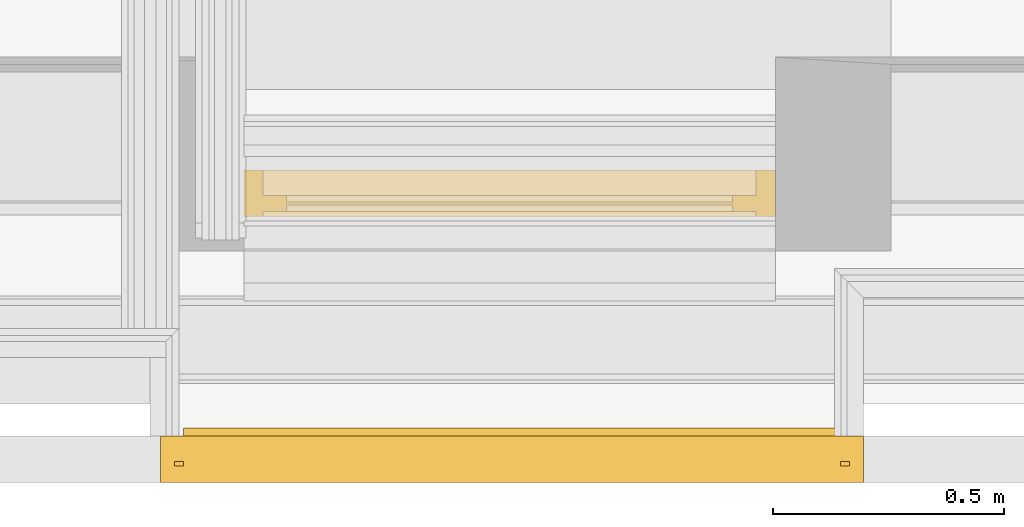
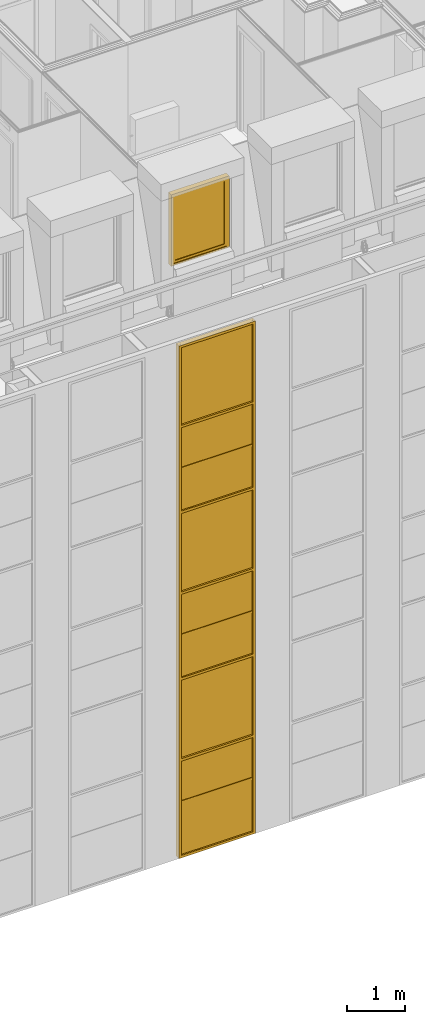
# One storey, part 94 of 169: 1 curtain wall, 1 window.
"""IFC2X3 building model written with IfcOpenShell, lengths in metres."""

import ifcopenshell
import ifcopenshell.guid

model = None  # the IFC model being written
_history = None  # IfcOwnerHistory: only IFC2X3 demands one
_inside = {}  # id of a spatial element -> (the spatial element, [elements in it])
_under = {}  # id of a project, library or spatial element -> (it, [spatial elements below it])
_declared = {}  # id of a project -> (the project, [libraries it declares])
_typed = {}  # id of a type object -> (the type object, [elements of that type])
_made_of = {}  # id of a material, layer set ... -> (it, [elements and type objects made of it])


def new_model(schema):
    """Start an empty IFC model of exactly this schema.

    Asked for "IFC4X3", IfcOpenShell would pick the latest addendum, in which some entities
    have other attributes; the version numbers below select the first issue.
    IFC2X3 requires an IfcOwnerHistory on every rooted entity: one is made here for all.
    """
    global model, _history
    if schema == "IFC4X3":
        model = ifcopenshell.file(schema_version=(4, 3, 0, 0))
    else:
        model = ifcopenshell.file(schema=schema)
    _inside.clear()
    _under.clear()
    _declared.clear()
    _typed.clear()
    _made_of.clear()
    _history = None
    if model.schema == "IFC2X3":
        org = make("IfcOrganization", Name="unknown")
        user = make(
            "IfcPersonAndOrganization",
            ThePerson=make("IfcPerson", FamilyName="unknown"),
            TheOrganization=org,
        )
        app = make(
            "IfcApplication",
            ApplicationDeveloper=org,
            Version="unknown",
            ApplicationFullName="unknown",
            ApplicationIdentifier="unknown",
        )
        _history = make(
            "IfcOwnerHistory",
            OwningUser=user,
            OwningApplication=app,
            ChangeAction="ADDED",
            CreationDate=0,
        )
    return model


def make(cls, **values):
    """One entity of the class cls with the attributes given. An attribute that is None is left unset."""
    return model.create_entity(
        cls, **{name: value for name, value in values.items() if value is not None}
    )


def entity(cls, *values):
    """Any entity or typed value of the class cls, its attributes in the order of the schema. None: left unset."""
    e = model.create_entity(cls)
    for i, value in enumerate(values):
        if value is not None:
            e[i] = value
    return e


def rooted(cls, **values):
    """An entity with a GlobalId (a new one), such as an element, a storey or a relation."""
    return make(cls, GlobalId=ifcopenshell.guid.new(), OwnerHistory=_history, **values)


def si_unit(unit_type, name, prefix=None):
    """IfcSIUnit, for example si_unit("LENGTHUNIT", "METRE", prefix="MILLI")."""
    return make("IfcSIUnit", UnitType=unit_type, Prefix=prefix, Name=name)


def converted_unit(unit_type, name, factor, base, dimensions=None, offset=None):
    """IfcConversionBasedUnit, such as the inch: factor (a typed value) times the base unit."""
    return make(
        "IfcConversionBasedUnit"
        if offset is None
        else "IfcConversionBasedUnitWithOffset",
        ConversionOffset=offset,
        Dimensions=None
        if dimensions is None
        else entity("IfcDimensionalExponents", *dimensions),
        UnitType=unit_type,
        Name=name,
        ConversionFactor=make(
            "IfcMeasureWithUnit", ValueComponent=factor, UnitComponent=base
        ),
    )


def derived_unit(unit_type, elements):
    """IfcDerivedUnit: a product of units, each with its exponent."""
    return make(
        "IfcDerivedUnit",
        Elements=[
            make("IfcDerivedUnitElement", Unit=unit, Exponent=power)
            for unit, power in elements
        ],
        UnitType=unit_type,
    )


def money_unit(currency):
    """IfcMonetaryUnit."""
    return make("IfcMonetaryUnit", Currency=currency)


def assignment(units):
    """IfcUnitAssignment: the units of a project."""
    return None if units is None else make("IfcUnitAssignment", Units=units)


def point(xyz):
    """IfcCartesianPoint."""
    return None if xyz is None else make("IfcCartesianPoint", Coordinates=xyz)


def direction(xyz):
    """IfcDirection."""
    return None if xyz is None else make("IfcDirection", DirectionRatios=xyz)


def frame(location, z_axis=None, x_axis=None):
    """IfcAxis2Placement3D, a coordinate frame: its origin and axes. An axis left out is left unset."""
    return make(
        "IfcAxis2Placement3D",
        Location=point(location),
        Axis=direction(z_axis),
        RefDirection=direction(x_axis),
    )


def origin_with_axes():
    """The frame at (0, 0, 0) with the z axis (0, 0, 1) and the x axis (1, 0, 0) written out."""
    return frame((0.0, 0.0, 0.0), z_axis=(0.0, 0.0, 1.0), x_axis=(1.0, 0.0, 0.0))


def place(relative_to, where):
    """IfcLocalPlacement: puts the frame where relative to a parent placement (None: the world)."""
    return make(
        "IfcLocalPlacement", PlacementRelTo=relative_to, RelativePlacement=where
    )


def context(
    kind, dimensions, precision=None, world=None, true_north=None, identifier=None
):
    """IfcGeometricRepresentationContext, for example the 3D "Model" context."""
    return make(
        "IfcGeometricRepresentationContext",
        ContextIdentifier=identifier,
        ContextType=kind,
        CoordinateSpaceDimension=dimensions,
        Precision=precision,
        WorldCoordinateSystem=world,
        TrueNorth=true_north,
    )


def subcontext(parent, identifier, kind, view, scale=None):
    """IfcGeometricRepresentationSubContext, for example "Body" below "Model"."""
    return make(
        "IfcGeometricRepresentationSubContext",
        ContextIdentifier=identifier,
        ContextType=kind,
        ParentContext=parent,
        TargetScale=scale,
        TargetView=view,
    )


def project(units=None, contexts=None):
    """IfcProject with its units and contexts."""
    return rooted(
        "IfcProject",
        Name="project",
        RepresentationContexts=contexts,
        UnitsInContext=assignment(units),
    )


def spatial(cls, under=None, at=None, **own):
    """A site, building, storey or space (cls), placed at a placement, below another one or the project."""
    s = rooted(cls, ObjectPlacement=at, **own)
    if under is not None:
        _under.setdefault(under.id(), (under, []))[1].append(s)
    return s


def faces_of(points, faces, orient=None, outer=None):
    """IfcFace entities. A face is a list of loops; a loop is a list of indices into points, from 0.

    orient and outer hold one flag for each loop. By default every Orientation is true, the
    first loop of a face is its IfcFaceOuterBound and the others are IfcFaceBound.
    """
    made = []
    for i, loops in enumerate(faces):
        bounds = []
        for j, loop in enumerate(loops):
            is_outer = j == 0 if outer is None else outer[i][j]
            bounds.append(
                make(
                    "IfcFaceOuterBound" if is_outer else "IfcFaceBound",
                    Bound=make("IfcPolyLoop", Polygon=[points[k] for k in loop]),
                    Orientation=True if orient is None else orient[i][j],
                )
            )
        made.append(make("IfcFace", Bounds=bounds))
    return made


def faceted_brep(points, faces, orient=None, outer=None, voids=None):
    """IfcFacetedBrep: a solid bounded by flat faces; with voids (closed shells), ...WithVoids."""
    shared = [point(p) for p in points]
    hull = make("IfcClosedShell", CfsFaces=faces_of(shared, faces, orient, outer))
    if voids is None:
        return make("IfcFacetedBrep", Outer=hull)
    return make(
        "IfcFacetedBrepWithVoids",
        Outer=hull,
        Voids=[
            make(cls, CfsFaces=faces_of(shared, fs, o, b)) for cls, fs, o, b in voids
        ],
    )


def shape(context_of_items, identifier, shape_type, items):
    """IfcShapeRepresentation: the items that make up one representation, for example the "Body"."""
    return make(
        "IfcShapeRepresentation",
        ContextOfItems=context_of_items,
        RepresentationIdentifier=identifier,
        RepresentationType=shape_type,
        Items=items,
    )


def material(Name=None, Category=None):
    """IfcMaterial."""
    return make("IfcMaterial", Name=Name, Category=Category)


def made_of(thing, what):
    """Note that an element or type object is made of a material, layer set ...; save() writes the relation."""
    if what is not None:
        _made_of.setdefault(what.id(), (what, []))[1].append(thing)
    return thing


def type_object(cls, material=None, **own):
    """A type object (cls), such as IfcWallType, which elements share."""
    return made_of(rooted(cls, **own), material)


def element(
    cls,
    number,
    at=None,
    inside=None,
    cuts=None,
    type_object=None,
    material=None,
    context=None,
    identifier="Body",
    shape_type=None,
    held_by="IfcProductDefinitionShape",
    body=None,
    shapes=None,
    **own,
):
    """One element of the class cls, such as IfcWall. Its Tag is "e" and its number.

    at: its placement. inside: the storey or other place that contains it. cuts: it is an
    opening in that element (IfcRelVoidsElement). A single representation is given by context,
    identifier, shape_type and body (its items); several are given by shapes. held_by: the class
    of the entity that holds the representations. save() writes the other relations.
    """
    e = rooted(cls, Tag="e%d" % number, ObjectPlacement=at, **own)
    if body is not None:
        shapes = [shape(context, identifier, shape_type, body)]
    if shapes is not None:
        e.Representation = make(held_by, Representations=shapes)
    if inside is not None:
        _inside.setdefault(inside.id(), (inside, []))[1].append(e)
    if cuts is not None:
        rooted(
            "IfcRelVoidsElement", RelatingBuildingElement=cuts, RelatedOpeningElement=e
        )
    if type_object is not None:
        _typed.setdefault(type_object.id(), (type_object, []))[1].append(e)
    return made_of(e, material)


def aggregate(whole, parts):
    """IfcRelAggregates: a whole, such as a stair, and the parts it consists of."""
    return rooted("IfcRelAggregates", RelatingObject=whole, RelatedObjects=parts)


def save(model, path):
    """Write the relations noted so far, then the file.

    IfcRelAggregates (storeys below a building ...), IfcRelContainedInSpatialStructure (elements
    in a storey), IfcRelDefinesByType, IfcRelAssociatesMaterial and IfcRelDeclares: one each for
    every whole, place, type object, material and project.
    """
    for whole, parts in _under.values():
        aggregate(whole, parts)
    for where, things in _inside.values():
        rooted(
            "IfcRelContainedInSpatialStructure",
            RelatedElements=things,
            RelatingStructure=where,
        )
    for kind, things in _typed.values():
        rooted("IfcRelDefinesByType", RelatedObjects=things, RelatingType=kind)
    for what, things in _made_of.values():
        rooted("IfcRelAssociatesMaterial", RelatedObjects=things, RelatingMaterial=what)
    for by, libraries in _declared.values():
        rooted("IfcRelDeclares", RelatingContext=by, RelatedDefinitions=libraries)
    model.write(path)


model = new_model("IFC2X3")

# Units and contexts
model_context = context("Model", 3, precision=1e-05, world=origin_with_axes(), true_north=direction((0.0, 1.0)))
body_context = subcontext(model_context, "Body", "Model", "MODEL_VIEW", scale=1.0)
ifc_project = project(units=[si_unit("LENGTHUNIT", "METRE"), si_unit("AREAUNIT", "SQUARE_METRE"), si_unit("VOLUMEUNIT", "CUBIC_METRE"), si_unit("ABSORBEDDOSEUNIT", "GRAY"), si_unit("AMOUNTOFSUBSTANCEUNIT", "MOLE"), si_unit("DOSEEQUIVALENTUNIT", "SIEVERT"), si_unit("ELECTRICCAPACITANCEUNIT", "FARAD"), si_unit("ELECTRICCHARGEUNIT", "COULOMB"), si_unit("ELECTRICCONDUCTANCEUNIT", "SIEMENS"), si_unit("ELECTRICCURRENTUNIT", "AMPERE"), si_unit("ELECTRICRESISTANCEUNIT", "OHM"), si_unit("ELECTRICVOLTAGEUNIT", "VOLT"), si_unit("ENERGYUNIT", "JOULE"), si_unit("FORCEUNIT", "NEWTON"), si_unit("FREQUENCYUNIT", "HERTZ"), si_unit("ILLUMINANCEUNIT", "LUX"), si_unit("INDUCTANCEUNIT", "HENRY"), si_unit("LUMINOUSFLUXUNIT", "LUMEN"), si_unit("LUMINOUSINTENSITYUNIT", "CANDELA"), si_unit("MAGNETICFLUXDENSITYUNIT", "TESLA"), si_unit("MAGNETICFLUXUNIT", "WEBER"), si_unit("MASSUNIT", "GRAM"), converted_unit("PLANEANGLEUNIT", "degree", entity("IfcReal", 0.0174532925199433), si_unit("PLANEANGLEUNIT", "RADIAN"), dimensions=[0, 0, 0, 0, 0, 0, 0]), si_unit("POWERUNIT", "WATT"), si_unit("PRESSUREUNIT", "PASCAL"), si_unit("RADIOACTIVITYUNIT", "BECQUEREL"), si_unit("SOLIDANGLEUNIT", "STERADIAN"), si_unit("THERMODYNAMICTEMPERATUREUNIT", "KELVIN"), si_unit("TIMEUNIT", "SECOND"), derived_unit("ACCELERATIONUNIT", [(si_unit("LENGTHUNIT", "METRE"), 1), (si_unit("TIMEUNIT", "SECOND"), -2)]), derived_unit("ANGULARVELOCITYUNIT", [(converted_unit("PLANEANGLEUNIT", "degree", entity("IfcReal", 0.0174532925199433), si_unit("PLANEANGLEUNIT", "RADIAN"), dimensions=[0, 0, 0, 0, 0, 0, 0]), 1), (si_unit("TIMEUNIT", "SECOND"), -1)]), derived_unit("CURVATUREUNIT", [(converted_unit("PLANEANGLEUNIT", "degree", entity("IfcReal", 0.0174532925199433), si_unit("PLANEANGLEUNIT", "RADIAN"), dimensions=[0, 0, 0, 0, 0, 0, 0]), 1), (si_unit("LENGTHUNIT", "METRE"), -1)]), derived_unit("DYNAMICVISCOSITYUNIT", [(si_unit("PRESSUREUNIT", "PASCAL"), 1), (si_unit("TIMEUNIT", "SECOND"), 1)]), derived_unit("HEATFLUXDENSITYUNIT", [(si_unit("POWERUNIT", "WATT"), 1), (si_unit("LENGTHUNIT", "METRE"), -2)]), derived_unit("HEATINGVALUEUNIT", [(si_unit("ENERGYUNIT", "JOULE"), 1), (si_unit("MASSUNIT", "GRAM"), -1)]), derived_unit("INTEGERCOUNTRATEUNIT", [(si_unit("TIMEUNIT", "SECOND"), -1)]), derived_unit("IONCONCENTRATIONUNIT", [(si_unit("MASSUNIT", "GRAM"), 1), (si_unit("VOLUMEUNIT", "CUBIC_METRE"), -1)]), derived_unit("ISOTHERMALMOISTURECAPACITYUNIT", [(si_unit("VOLUMEUNIT", "CUBIC_METRE"), 1), (si_unit("MASSUNIT", "GRAM"), -1)]), derived_unit("KINEMATICVISCOSITYUNIT", [(si_unit("AREAUNIT", "SQUARE_METRE"), 1), (si_unit("TIMEUNIT", "SECOND"), -1)]), derived_unit("LINEARFORCEUNIT", [(si_unit("FORCEUNIT", "NEWTON"), 1), (si_unit("LENGTHUNIT", "METRE"), -1)]), derived_unit("LINEARMOMENTUNIT", [(si_unit("FORCEUNIT", "NEWTON"), 1), (si_unit("LENGTHUNIT", "METRE"), -1)]), derived_unit("LINEARSTIFFNESSUNIT", [(si_unit("FORCEUNIT", "NEWTON"), 1), (si_unit("LENGTHUNIT", "METRE"), -1)]), derived_unit("LINEARVELOCITYUNIT", [(si_unit("LENGTHUNIT", "METRE"), 1), (si_unit("TIMEUNIT", "SECOND"), -1)]), derived_unit("LUMINOUSINTENSITYDISTRIBUTIONUNIT", [(si_unit("LUMINOUSINTENSITYUNIT", "CANDELA"), 1), (si_unit("LUMINOUSFLUXUNIT", "LUMEN"), -1)]), derived_unit("MASSDENSITYUNIT", [(si_unit("MASSUNIT", "GRAM"), 1), (si_unit("VOLUMEUNIT", "CUBIC_METRE"), -1)]), derived_unit("MASSFLOWRATEUNIT", [(si_unit("MASSUNIT", "GRAM"), 1), (si_unit("TIMEUNIT", "SECOND"), -1)]), derived_unit("MASSPERLENGTHUNIT", [(si_unit("MASSUNIT", "GRAM"), 1), (si_unit("LENGTHUNIT", "METRE"), -1)]), derived_unit("MODULUSOFELASTICITYUNIT", [(si_unit("FORCEUNIT", "NEWTON"), 1), (si_unit("AREAUNIT", "SQUARE_METRE"), -1)]), derived_unit("MODULUSOFLINEARSUBGRADEREACTIONUNIT", [(si_unit("FORCEUNIT", "NEWTON"), 1), (si_unit("LENGTHUNIT", "METRE"), -2)]), derived_unit("MODULUSOFROTATIONALSUBGRADEREACTIONUNIT", [(si_unit("FORCEUNIT", "NEWTON"), 1), (si_unit("LENGTHUNIT", "METRE"), 1)]), derived_unit("MODULUSOFSUBGRADEREACTIONUNIT", [(si_unit("FORCEUNIT", "NEWTON"), 1), (si_unit("VOLUMEUNIT", "CUBIC_METRE"), -1)]), derived_unit("MOISTUREDIFFUSIVITYUNIT", [(si_unit("VOLUMEUNIT", "CUBIC_METRE"), 1), (si_unit("TIMEUNIT", "SECOND"), -1)]), derived_unit("MOLECULARWEIGHTUNIT", [(si_unit("MASSUNIT", "GRAM"), 1), (si_unit("AMOUNTOFSUBSTANCEUNIT", "MOLE"), -1)]), derived_unit("PLANARFORCEUNIT", [(si_unit("FORCEUNIT", "NEWTON"), 1), (si_unit("LENGTHUNIT", "METRE"), -2)]), derived_unit("ROTATIONALFREQUENCYUNIT", [(si_unit("TIMEUNIT", "SECOND"), -1)]), derived_unit("ROTATIONALMASSUNIT", [(si_unit("MASSUNIT", "GRAM"), 1), (si_unit("LENGTHUNIT", "METRE"), 2)]), derived_unit("ROTATIONALSTIFFNESSUNIT", [(si_unit("FORCEUNIT", "NEWTON"), 1), (si_unit("LENGTHUNIT", "METRE"), 1), (converted_unit("PLANEANGLEUNIT", "degree", entity("IfcReal", 0.0174532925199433), si_unit("PLANEANGLEUNIT", "RADIAN"), dimensions=[0, 0, 0, 0, 0, 0, 0]), -1)]), derived_unit("SECTIONAREAINTEGRALUNIT", [(si_unit("LENGTHUNIT", "METRE"), 5)]), derived_unit("SECTIONMODULUSUNIT", [(si_unit("LENGTHUNIT", "METRE"), 3)]), derived_unit("SHEARMODULUSUNIT", [(si_unit("FORCEUNIT", "NEWTON"), 1), (si_unit("AREAUNIT", "SQUARE_METRE"), -1)]), derived_unit("SOUNDPOWERUNIT", [(si_unit("ENERGYUNIT", "JOULE"), 1), (si_unit("TIMEUNIT", "SECOND"), -1)]), derived_unit("SPECIFICHEATCAPACITYUNIT", [(si_unit("FORCEUNIT", "NEWTON"), 1), (si_unit("MASSUNIT", "GRAM"), -1), (si_unit("THERMODYNAMICTEMPERATUREUNIT", "KELVIN"), -1)]), derived_unit("TEMPERATUREGRADIENTUNIT", [(si_unit("THERMODYNAMICTEMPERATUREUNIT", "KELVIN"), 1), (si_unit("LENGTHUNIT", "METRE"), -1)]), derived_unit("THERMALADMITTANCEUNIT", [(si_unit("POWERUNIT", "WATT"), 1), (si_unit("AREAUNIT", "SQUARE_METRE"), -1), (si_unit("THERMODYNAMICTEMPERATUREUNIT", "KELVIN"), -1)]), derived_unit("THERMALCONDUCTANCEUNIT", [(si_unit("POWERUNIT", "WATT"), 1), (si_unit("LENGTHUNIT", "METRE"), -1), (si_unit("THERMODYNAMICTEMPERATUREUNIT", "KELVIN"), -1)]), derived_unit("THERMALEXPANSIONCOEFFICIENTUNIT", [(si_unit("THERMODYNAMICTEMPERATUREUNIT", "KELVIN"), -1)]), derived_unit("THERMALRESISTANCEUNIT", [(si_unit("AREAUNIT", "SQUARE_METRE"), 1), (si_unit("POWERUNIT", "WATT"), -1)]), derived_unit("THERMALTRANSMITTANCEUNIT", [(si_unit("POWERUNIT", "WATT"), 1), (si_unit("AREAUNIT", "SQUARE_METRE"), -1), (si_unit("THERMODYNAMICTEMPERATUREUNIT", "KELVIN"), -1)]), derived_unit("TORQUEUNIT", [(si_unit("FORCEUNIT", "NEWTON"), 1), (si_unit("LENGTHUNIT", "METRE"), 1)]), derived_unit("VAPORPERMEABILITYUNIT", [(si_unit("MASSUNIT", "GRAM"), 1), (si_unit("TIMEUNIT", "SECOND"), -1)]), derived_unit("VOLUMETRICFLOWRATEUNIT", [(si_unit("VOLUMEUNIT", "CUBIC_METRE"), 1), (si_unit("TIMEUNIT", "SECOND"), -1)]), derived_unit("WARPINGCONSTANTUNIT", [(si_unit("LENGTHUNIT", "METRE"), 6)]), derived_unit("WARPINGMOMENTUNIT", [(si_unit("FORCEUNIT", "NEWTON"), 1), (si_unit("LENGTHUNIT", "METRE"), 2)]), money_unit("GBP")], contexts=[model_context])

# Site, building, storey
site_placement = place(None, origin_with_axes())
site = spatial("IfcSite", under=ifc_project, at=site_placement, Name="Site", CompositionType="ELEMENT")
building_placement = place(site_placement, origin_with_axes())
building = spatial("IfcBuilding", under=site, at=building_placement, Name="Building01", CompositionType="ELEMENT")
storey_placement = place(building_placement, frame((0.0, 0.0, 5.15), z_axis=(0.0, 0.0, 1.0), x_axis=(1.0, 0.0, 0.0)))
storey = spatial("IfcBuildingStorey", under=building, at=storey_placement, Name="1F", CompositionType="ELEMENT", Elevation=5.15)

# Curtain wall
ifc_material_1 = material(Name="A-CurtainWall_Frame")
curtain_wall_type = type_object("IfcCurtainWallType", Name="Pattern - Maximum Spacing", PredefinedType="NOTDEFINED")
curtain_wall_placement = place(storey_placement, frame((0.0, 0.0, -5.15), z_axis=(0.0, 0.0, 1.0), x_axis=(1.0, 0.0, 0.0)))
element("IfcCurtainWall", 1, at=curtain_wall_placement, inside=storey, type_object=curtain_wall_type, material=ifc_material_1, Name="19", ObjectType="Pattern - Maximum Spacing", context=body_context, shape_type="Brep", body=[
    faceted_brep([(7.3, 0.05, 4.0), (7.3, 0.03, 4.0), (7.3, 0.03, 5.118945), (7.3, 0.05, 5.118945), (8.76, 0.05, 4.0), (8.76, 0.03, 4.0), (8.76, 0.05, 5.118945), (8.76, 0.03, 5.118945)], [[[0, 1, 2, 3]], [[4, 5, 1, 0]], [[6, 7, 5, 4]], [[3, 2, 7, 6]], [[1, 5, 7, 2]], [[3, 6, 4, 0]]]),
    faceted_brep([(7.32, 0.045, 3.97), (7.3, 0.045, 3.97), (7.3, 0.035, 3.97), (7.32, 0.035, 3.97), (7.32, 0.0, 3.97), (7.27, 0.0, 3.97), (7.27, 0.1, 3.97), (7.32, 0.1, 3.97), (7.32, 0.1, 5.123945), (7.32, 0.045, 5.123945), (7.3, 0.045, 5.123945), (7.3, 0.035, 5.123945), (7.32, 0.035, 5.123945), (7.32, 0.0, 5.123945), (7.27, 0.0, 5.123945), (7.27, 0.1, 5.123945)], [[[0, 1, 2, 3, 4, 5, 6, 7]], [[7, 8, 9, 0]], [[0, 9, 10, 1]], [[1, 10, 11, 2]], [[2, 11, 12, 3]], [[3, 12, 13, 4]], [[4, 13, 14, 5]], [[5, 14, 15, 6]], [[6, 15, 8, 7]]]),
    faceted_brep([(8.74, 0.045, 4.0), (8.74, 0.035, 4.0), (8.74, 0.035, 4.02), (8.74, 0.0, 4.02), (8.74, 0.0, 3.97), (8.74, 0.1, 3.97), (8.74, 0.1, 4.02), (8.74, 0.045, 4.02), (7.32, 0.045, 4.02), (7.32, 0.045, 4.0), (7.32, 0.035, 4.0), (7.32, 0.035, 4.02), (7.32, 0.0, 4.02), (7.32, 0.0, 3.97), (7.32, 0.1, 3.97), (7.32, 0.1, 4.02)], [[[0, 1, 2, 3, 4, 5, 6, 7]], [[7, 8, 9, 0]], [[0, 9, 10, 1]], [[1, 10, 11, 2]], [[2, 11, 12, 3]], [[3, 12, 13, 4]], [[4, 13, 14, 5]], [[5, 14, 15, 6]], [[6, 15, 8, 7]], [[8, 15, 14, 13, 12, 11, 10, 9]]]),
    faceted_brep([(8.74, 0.045, 3.97), (8.74, 0.045, 5.123945), (8.74, 0.1, 5.123945), (8.74, 0.1, 3.97), (8.76, 0.045, 3.97), (8.76, 0.045, 5.123945), (8.76, 0.035, 3.97), (8.76, 0.035, 5.123945), (8.74, 0.035, 3.97), (8.74, 0.035, 5.123945), (8.74, 0.0, 3.97), (8.74, 0.0, 5.123945), (8.79, 0.0, 3.97), (8.79, 0.0, 5.123945), (8.79, 0.1, 3.97), (8.79, 0.1, 5.123945)], [[[0, 1, 2, 3]], [[4, 5, 1, 0]], [[6, 7, 5, 4]], [[8, 9, 7, 6]], [[10, 11, 9, 8]], [[12, 13, 11, 10]], [[14, 15, 13, 12]], [[3, 2, 15, 14]], [[14, 12, 10, 8, 6, 4, 0, 3]]]),
    faceted_brep([(7.32, 0.0625, 5.118945), (7.32, 0.0525, 5.118945), (7.32, 0.0525, 5.098945), (7.32, 0.0175, 5.098945), (7.32, 0.0175, 5.148945), (7.32, 0.0525, 5.148945), (7.32, 0.0525, 5.128945), (7.32, 0.0625, 5.128945), (7.32, 0.0625, 5.148945), (7.32, 0.1175, 5.148945), (7.32, 0.1175, 5.098945), (7.32, 0.0625, 5.098945), (8.74, 0.0625, 5.098945), (8.74, 0.0625, 5.118945), (8.74, 0.0525, 5.118945), (8.74, 0.0525, 5.098945), (8.74, 0.0175, 5.098945), (8.74, 0.0175, 5.148945), (8.74, 0.0525, 5.148945), (8.74, 0.0625, 5.128945), (8.74, 0.0625, 5.148945), (8.74, 0.0525, 5.128945), (8.74, 0.1175, 5.098945), (8.74, 0.1175, 5.148945)], [[[0, 1, 2, 3, 4, 5, 6, 7, 8, 9, 10, 11]], [[11, 12, 13, 0]], [[0, 13, 14, 1]], [[1, 14, 15, 2]], [[2, 15, 16, 3]], [[3, 16, 17, 4]], [[4, 17, 18, 5]], [[7, 19, 20, 8]], [[6, 21, 19, 7]], [[5, 18, 21, 6]], [[10, 22, 12, 11]], [[9, 23, 22, 10]], [[8, 20, 23, 9]], [[20, 19, 21, 18, 17, 16, 15, 14, 13, 12, 22, 23]]]),
    faceted_brep([(7.3, 0.05, 5.128945), (7.3, 0.03, 5.128945), (7.3, 0.03, 6.018105), (7.3, 0.05, 6.018105), (8.76, 0.05, 5.128945), (8.76, 0.03, 5.128945), (8.76, 0.05, 6.018105), (8.76, 0.03, 6.018105)], [[[0, 1, 2, 3]], [[4, 5, 1, 0]], [[6, 7, 5, 4]], [[3, 2, 7, 6]], [[1, 5, 7, 2]], [[3, 6, 4, 0]]]),
    faceted_brep([(7.27, 0.1, 6.023105), (7.27, 0.1, 5.123945), (7.27, 0.0, 5.123945), (7.27, 0.0, 6.023105), (7.32, 0.1, 6.023105), (7.32, 0.1, 5.123945), (7.32, 0.045, 6.023105), (7.32, 0.045, 5.123945), (7.3, 0.045, 6.023105), (7.3, 0.045, 5.123945), (7.3, 0.035, 6.023105), (7.3, 0.035, 5.123945), (7.32, 0.035, 6.023105), (7.32, 0.035, 5.123945), (7.32, 0.0, 6.023105), (7.32, 0.0, 5.123945)], [[[0, 1, 2, 3]], [[4, 5, 1, 0]], [[6, 7, 5, 4]], [[8, 9, 7, 6]], [[10, 11, 9, 8]], [[12, 13, 11, 10]], [[14, 15, 13, 12]], [[3, 2, 15, 14]]]),
    faceted_brep([(8.74, 0.045, 5.123945), (8.74, 0.045, 6.023105), (8.74, 0.1, 6.023105), (8.74, 0.1, 5.123945), (8.76, 0.045, 5.123945), (8.76, 0.045, 6.023105), (8.76, 0.035, 5.123945), (8.76, 0.035, 6.023105), (8.74, 0.035, 5.123945), (8.74, 0.035, 6.023105), (8.74, 0.0, 5.123945), (8.74, 0.0, 6.023105), (8.79, 0.0, 5.123945), (8.79, 0.0, 6.023105), (8.79, 0.1, 5.123945), (8.79, 0.1, 6.023105)], [[[0, 1, 2, 3]], [[4, 5, 1, 0]], [[6, 7, 5, 4]], [[8, 9, 7, 6]], [[10, 11, 9, 8]], [[12, 13, 11, 10]], [[14, 15, 13, 12]], [[3, 2, 15, 14]]]),
    faceted_brep([(7.32, 0.045, 6.018105), (7.32, 0.035, 6.018105), (7.32, 0.035, 5.998105), (7.32, 0.0, 5.998105), (7.32, 0.0, 6.048105), (7.32, 0.035, 6.048105), (7.32, 0.035, 6.028105), (7.32, 0.045, 6.028105), (7.32, 0.045, 6.048105), (7.32, 0.1, 6.048105), (7.32, 0.1, 5.998105), (7.32, 0.045, 5.998105), (8.74, 0.045, 5.998105), (8.74, 0.045, 6.018105), (8.74, 0.035, 6.018105), (8.74, 0.035, 5.998105), (8.74, 0.0, 5.998105), (8.74, 0.0, 6.048105), (8.74, 0.035, 6.048105), (8.74, 0.045, 6.028105), (8.74, 0.045, 6.048105), (8.74, 0.035, 6.028105), (8.74, 0.1, 5.998105), (8.74, 0.1, 6.048105)], [[[0, 1, 2, 3, 4, 5, 6, 7, 8, 9, 10, 11]], [[11, 12, 13, 0]], [[0, 13, 14, 1]], [[1, 14, 15, 2]], [[2, 15, 16, 3]], [[3, 16, 17, 4]], [[4, 17, 18, 5]], [[7, 19, 20, 8]], [[6, 21, 19, 7]], [[5, 18, 21, 6]], [[10, 22, 12, 11]], [[9, 23, 22, 10]], [[8, 20, 23, 9]], [[20, 19, 21, 18, 17, 16, 15, 14, 13, 12, 22, 23]]]),
    faceted_brep([(7.3, 0.045, 6.028105), (7.3, 0.035, 6.028105), (7.3, 0.035, 7.716517), (7.3, 0.045, 7.716517), (8.76, 0.045, 6.028105), (8.76, 0.035, 6.028105), (8.76, 0.045, 7.716517), (8.76, 0.035, 7.716517)], [[[0, 1, 2, 3]], [[4, 5, 1, 0]], [[6, 7, 5, 4]], [[3, 2, 7, 6]], [[1, 5, 7, 2]], [[3, 6, 4, 0]]]),
    faceted_brep([(7.27, 0.1, 7.721517), (7.27, 0.1, 6.023105), (7.27, 0.0, 6.023105), (7.27, 0.0, 7.721517), (7.32, 0.1, 7.721517), (7.32, 0.1, 6.023105), (7.32, 0.045, 7.721517), (7.32, 0.045, 6.023105), (7.3, 0.045, 7.721517), (7.3, 0.045, 6.023105), (7.3, 0.035, 7.721517), (7.3, 0.035, 6.023105), (7.32, 0.035, 7.721517), (7.32, 0.035, 6.023105), (7.32, 0.0, 7.721517), (7.32, 0.0, 6.023105)], [[[0, 1, 2, 3]], [[4, 5, 1, 0]], [[6, 7, 5, 4]], [[8, 9, 7, 6]], [[10, 11, 9, 8]], [[12, 13, 11, 10]], [[14, 15, 13, 12]], [[3, 2, 15, 14]]]),
    faceted_brep([(8.74, 0.045, 6.023105), (8.74, 0.045, 7.721517), (8.74, 0.1, 7.721517), (8.74, 0.1, 6.023105), (8.76, 0.045, 6.023105), (8.76, 0.045, 7.721517), (8.76, 0.035, 6.023105), (8.76, 0.035, 7.721517), (8.74, 0.035, 6.023105), (8.74, 0.035, 7.721517), (8.74, 0.0, 6.023105), (8.74, 0.0, 7.721517), (8.79, 0.0, 6.023105), (8.79, 0.0, 7.721517), (8.79, 0.1, 6.023105), (8.79, 0.1, 7.721517)], [[[0, 1, 2, 3]], [[4, 5, 1, 0]], [[6, 7, 5, 4]], [[8, 9, 7, 6]], [[10, 11, 9, 8]], [[12, 13, 11, 10]], [[14, 15, 13, 12]], [[3, 2, 15, 14]]]),
    faceted_brep([(7.32, 0.045, 7.716517), (7.32, 0.035, 7.716517), (7.32, 0.035, 7.696517), (7.32, 0.0, 7.696517), (7.32, 0.0, 7.746517), (7.32, 0.035, 7.746517), (7.32, 0.035, 7.726517), (7.32, 0.045, 7.726517), (7.32, 0.045, 7.746517), (7.32, 0.1, 7.746517), (7.32, 0.1, 7.696517), (7.32, 0.045, 7.696517), (8.74, 0.045, 7.696517), (8.74, 0.045, 7.716517), (8.74, 0.035, 7.716517), (8.74, 0.035, 7.696517), (8.74, 0.0, 7.696517), (8.74, 0.0, 7.746517), (8.74, 0.035, 7.746517), (8.74, 0.045, 7.726517), (8.74, 0.045, 7.746517), (8.74, 0.035, 7.726517), (8.74, 0.1, 7.696517), (8.74, 0.1, 7.746517)], [[[0, 1, 2, 3, 4, 5, 6, 7, 8, 9, 10, 11]], [[11, 12, 13, 0]], [[0, 13, 14, 1]], [[1, 14, 15, 2]], [[2, 15, 16, 3]], [[3, 16, 17, 4]], [[4, 17, 18, 5]], [[7, 19, 20, 8]], [[6, 21, 19, 7]], [[5, 18, 21, 6]], [[10, 22, 12, 11]], [[9, 23, 22, 10]], [[8, 20, 23, 9]], [[20, 19, 21, 18, 17, 16, 15, 14, 13, 12, 22, 23]]]),
    faceted_brep([(7.3, 0.05, 7.726517), (7.3, 0.03, 7.726517), (7.3, 0.03, 8.615677), (7.3, 0.05, 8.615677), (8.76, 0.05, 7.726517), (8.76, 0.03, 7.726517), (8.76, 0.05, 8.615677), (8.76, 0.03, 8.615677)], [[[0, 1, 2, 3]], [[4, 5, 1, 0]], [[6, 7, 5, 4]], [[3, 2, 7, 6]], [[1, 5, 7, 2]], [[3, 6, 4, 0]]]),
    faceted_brep([(7.27, 0.1, 8.620677), (7.27, 0.1, 7.721517), (7.27, 0.0, 7.721517), (7.27, 0.0, 8.620677), (7.32, 0.1, 8.620677), (7.32, 0.1, 7.721517), (7.32, 0.045, 8.620677), (7.32, 0.045, 7.721517), (7.3, 0.045, 8.620677), (7.3, 0.045, 7.721517), (7.3, 0.035, 8.620677), (7.3, 0.035, 7.721517), (7.32, 0.035, 8.620677), (7.32, 0.035, 7.721517), (7.32, 0.0, 8.620677), (7.32, 0.0, 7.721517)], [[[0, 1, 2, 3]], [[4, 5, 1, 0]], [[6, 7, 5, 4]], [[8, 9, 7, 6]], [[10, 11, 9, 8]], [[12, 13, 11, 10]], [[14, 15, 13, 12]], [[3, 2, 15, 14]]]),
    faceted_brep([(8.74, 0.045, 7.721517), (8.74, 0.045, 8.620677), (8.74, 0.1, 8.620677), (8.74, 0.1, 7.721517), (8.76, 0.045, 7.721517), (8.76, 0.045, 8.620677), (8.76, 0.035, 7.721517), (8.76, 0.035, 8.620677), (8.74, 0.035, 7.721517), (8.74, 0.035, 8.620677), (8.74, 0.0, 7.721517), (8.74, 0.0, 8.620677), (8.79, 0.0, 7.721517), (8.79, 0.0, 8.620677), (8.79, 0.1, 7.721517), (8.79, 0.1, 8.620677)], [[[0, 1, 2, 3]], [[4, 5, 1, 0]], [[6, 7, 5, 4]], [[8, 9, 7, 6]], [[10, 11, 9, 8]], [[12, 13, 11, 10]], [[14, 15, 13, 12]], [[3, 2, 15, 14]]]),
    faceted_brep([(7.32, 0.0625, 8.615677), (7.32, 0.0525, 8.615677), (7.32, 0.0525, 8.595677), (7.32, 0.0175, 8.595677), (7.32, 0.0175, 8.645677), (7.32, 0.0525, 8.645677), (7.32, 0.0525, 8.625677), (7.32, 0.0625, 8.625677), (7.32, 0.0625, 8.645677), (7.32, 0.1175, 8.645677), (7.32, 0.1175, 8.595677), (7.32, 0.0625, 8.595677), (8.74, 0.0625, 8.595677), (8.74, 0.0625, 8.615677), (8.74, 0.0525, 8.615677), (8.74, 0.0525, 8.595677), (8.74, 0.0175, 8.595677), (8.74, 0.0175, 8.645677), (8.74, 0.0525, 8.645677), (8.74, 0.0625, 8.625677), (8.74, 0.0625, 8.645677), (8.74, 0.0525, 8.625677), (8.74, 0.1175, 8.595677), (8.74, 0.1175, 8.645677)], [[[0, 1, 2, 3, 4, 5, 6, 7, 8, 9, 10, 11]], [[11, 12, 13, 0]], [[0, 13, 14, 1]], [[1, 14, 15, 2]], [[2, 15, 16, 3]], [[3, 16, 17, 4]], [[4, 17, 18, 5]], [[7, 19, 20, 8]], [[6, 21, 19, 7]], [[5, 18, 21, 6]], [[10, 22, 12, 11]], [[9, 23, 22, 10]], [[8, 20, 23, 9]], [[20, 19, 21, 18, 17, 16, 15, 14, 13, 12, 22, 23]]]),
    faceted_brep([(7.3, 0.05, 8.625677), (7.3, 0.03, 8.625677), (7.3, 0.03, 9.514837), (7.3, 0.05, 9.514837), (8.76, 0.05, 8.625677), (8.76, 0.03, 8.625677), (8.76, 0.05, 9.514837), (8.76, 0.03, 9.514837)], [[[0, 1, 2, 3]], [[4, 5, 1, 0]], [[6, 7, 5, 4]], [[3, 2, 7, 6]], [[1, 5, 7, 2]], [[3, 6, 4, 0]]]),
    faceted_brep([(7.27, 0.1, 9.519837), (7.27, 0.1, 8.620677), (7.27, 0.0, 8.620677), (7.27, 0.0, 9.519837), (7.32, 0.1, 9.519837), (7.32, 0.1, 8.620677), (7.32, 0.045, 9.519837), (7.32, 0.045, 8.620677), (7.3, 0.045, 9.519837), (7.3, 0.045, 8.620677), (7.3, 0.035, 9.519837), (7.3, 0.035, 8.620677), (7.32, 0.035, 9.519837), (7.32, 0.035, 8.620677), (7.32, 0.0, 9.519837), (7.32, 0.0, 8.620677)], [[[0, 1, 2, 3]], [[4, 5, 1, 0]], [[6, 7, 5, 4]], [[8, 9, 7, 6]], [[10, 11, 9, 8]], [[12, 13, 11, 10]], [[14, 15, 13, 12]], [[3, 2, 15, 14]]]),
    faceted_brep([(8.74, 0.045, 8.620677), (8.74, 0.045, 9.519837), (8.74, 0.1, 9.519837), (8.74, 0.1, 8.620677), (8.76, 0.045, 8.620677), (8.76, 0.045, 9.519837), (8.76, 0.035, 8.620677), (8.76, 0.035, 9.519837), (8.74, 0.035, 8.620677), (8.74, 0.035, 9.519837), (8.74, 0.0, 8.620677), (8.74, 0.0, 9.519837), (8.79, 0.0, 8.620677), (8.79, 0.0, 9.519837), (8.79, 0.1, 8.620677), (8.79, 0.1, 9.519837)], [[[0, 1, 2, 3]], [[4, 5, 1, 0]], [[6, 7, 5, 4]], [[8, 9, 7, 6]], [[10, 11, 9, 8]], [[12, 13, 11, 10]], [[14, 15, 13, 12]], [[3, 2, 15, 14]]]),
    faceted_brep([(7.32, 0.045, 9.514837), (7.32, 0.035, 9.514837), (7.32, 0.035, 9.494837), (7.32, 0.0, 9.494837), (7.32, 0.0, 9.544837), (7.32, 0.035, 9.544837), (7.32, 0.035, 9.524837), (7.32, 0.045, 9.524837), (7.32, 0.045, 9.544837), (7.32, 0.1, 9.544837), (7.32, 0.1, 9.494837), (7.32, 0.045, 9.494837), (8.74, 0.045, 9.494837), (8.74, 0.045, 9.514837), (8.74, 0.035, 9.514837), (8.74, 0.035, 9.494837), (8.74, 0.0, 9.494837), (8.74, 0.0, 9.544837), (8.74, 0.035, 9.544837), (8.74, 0.045, 9.524837), (8.74, 0.045, 9.544837), (8.74, 0.035, 9.524837), (8.74, 0.1, 9.494837), (8.74, 0.1, 9.544837)], [[[0, 1, 2, 3, 4, 5, 6, 7, 8, 9, 10, 11]], [[11, 12, 13, 0]], [[0, 13, 14, 1]], [[1, 14, 15, 2]], [[2, 15, 16, 3]], [[3, 16, 17, 4]], [[4, 17, 18, 5]], [[7, 19, 20, 8]], [[6, 21, 19, 7]], [[5, 18, 21, 6]], [[10, 22, 12, 11]], [[9, 23, 22, 10]], [[8, 20, 23, 9]], [[20, 19, 21, 18, 17, 16, 15, 14, 13, 12, 22, 23]]]),
    faceted_brep([(7.3, 0.045, 9.524837), (7.3, 0.035, 9.524837), (7.3, 0.035, 11.213249), (7.3, 0.045, 11.213249), (8.76, 0.045, 9.524837), (8.76, 0.035, 9.524837), (8.76, 0.045, 11.213249), (8.76, 0.035, 11.213249)], [[[0, 1, 2, 3]], [[4, 5, 1, 0]], [[6, 7, 5, 4]], [[3, 2, 7, 6]], [[1, 5, 7, 2]], [[3, 6, 4, 0]]]),
    faceted_brep([(7.27, 0.1, 11.218249), (7.27, 0.1, 9.519837), (7.27, 0.0, 9.519837), (7.27, 0.0, 11.218249), (7.32, 0.1, 11.218249), (7.32, 0.1, 9.519837), (7.32, 0.045, 11.218249), (7.32, 0.045, 9.519837), (7.3, 0.045, 11.218249), (7.3, 0.045, 9.519837), (7.3, 0.035, 11.218249), (7.3, 0.035, 9.519837), (7.32, 0.035, 11.218249), (7.32, 0.035, 9.519837), (7.32, 0.0, 11.218249), (7.32, 0.0, 9.519837)], [[[0, 1, 2, 3]], [[4, 5, 1, 0]], [[6, 7, 5, 4]], [[8, 9, 7, 6]], [[10, 11, 9, 8]], [[12, 13, 11, 10]], [[14, 15, 13, 12]], [[3, 2, 15, 14]]]),
    faceted_brep([(8.74, 0.045, 9.519837), (8.74, 0.045, 11.218249), (8.74, 0.1, 11.218249), (8.74, 0.1, 9.519837), (8.76, 0.045, 9.519837), (8.76, 0.045, 11.218249), (8.76, 0.035, 9.519837), (8.76, 0.035, 11.218249), (8.74, 0.035, 9.519837), (8.74, 0.035, 11.218249), (8.74, 0.0, 9.519837), (8.74, 0.0, 11.218249), (8.79, 0.0, 9.519837), (8.79, 0.0, 11.218249), (8.79, 0.1, 9.519837), (8.79, 0.1, 11.218249)], [[[0, 1, 2, 3]], [[4, 5, 1, 0]], [[6, 7, 5, 4]], [[8, 9, 7, 6]], [[10, 11, 9, 8]], [[12, 13, 11, 10]], [[14, 15, 13, 12]], [[3, 2, 15, 14]]]),
    faceted_brep([(7.32, 0.045, 11.213249), (7.32, 0.035, 11.213249), (7.32, 0.035, 11.193249), (7.32, 0.0, 11.193249), (7.32, 0.0, 11.243249), (7.32, 0.035, 11.243249), (7.32, 0.035, 11.223249), (7.32, 0.045, 11.223249), (7.32, 0.045, 11.243249), (7.32, 0.1, 11.243249), (7.32, 0.1, 11.193249), (7.32, 0.045, 11.193249), (8.74, 0.045, 11.193249), (8.74, 0.045, 11.213249), (8.74, 0.035, 11.213249), (8.74, 0.035, 11.193249), (8.74, 0.0, 11.193249), (8.74, 0.0, 11.243249), (8.74, 0.035, 11.243249), (8.74, 0.045, 11.223249), (8.74, 0.045, 11.243249), (8.74, 0.035, 11.223249), (8.74, 0.1, 11.193249), (8.74, 0.1, 11.243249)], [[[0, 1, 2, 3, 4, 5, 6, 7, 8, 9, 10, 11]], [[11, 12, 13, 0]], [[0, 13, 14, 1]], [[1, 14, 15, 2]], [[2, 15, 16, 3]], [[3, 16, 17, 4]], [[4, 17, 18, 5]], [[7, 19, 20, 8]], [[6, 21, 19, 7]], [[5, 18, 21, 6]], [[10, 22, 12, 11]], [[9, 23, 22, 10]], [[8, 20, 23, 9]], [[20, 19, 21, 18, 17, 16, 15, 14, 13, 12, 22, 23]]]),
    faceted_brep([(7.3, 0.05, 11.223249), (7.3, 0.03, 11.223249), (7.3, 0.03, 12.112409), (7.3, 0.05, 12.112409), (8.76, 0.05, 11.223249), (8.76, 0.03, 11.223249), (8.76, 0.05, 12.112409), (8.76, 0.03, 12.112409)], [[[0, 1, 2, 3]], [[4, 5, 1, 0]], [[6, 7, 5, 4]], [[3, 2, 7, 6]], [[1, 5, 7, 2]], [[3, 6, 4, 0]]]),
    faceted_brep([(7.27, 0.1, 12.117409), (7.27, 0.1, 11.218249), (7.27, 0.0, 11.218249), (7.27, 0.0, 12.117409), (7.32, 0.1, 12.117409), (7.32, 0.1, 11.218249), (7.32, 0.045, 12.117409), (7.32, 0.045, 11.218249), (7.3, 0.045, 12.117409), (7.3, 0.045, 11.218249), (7.3, 0.035, 12.117409), (7.3, 0.035, 11.218249), (7.32, 0.035, 12.117409), (7.32, 0.035, 11.218249), (7.32, 0.0, 12.117409), (7.32, 0.0, 11.218249)], [[[0, 1, 2, 3]], [[4, 5, 1, 0]], [[6, 7, 5, 4]], [[8, 9, 7, 6]], [[10, 11, 9, 8]], [[12, 13, 11, 10]], [[14, 15, 13, 12]], [[3, 2, 15, 14]]]),
    faceted_brep([(8.74, 0.045, 11.218249), (8.74, 0.045, 12.117409), (8.74, 0.1, 12.117409), (8.74, 0.1, 11.218249), (8.76, 0.045, 11.218249), (8.76, 0.045, 12.117409), (8.76, 0.035, 11.218249), (8.76, 0.035, 12.117409), (8.74, 0.035, 11.218249), (8.74, 0.035, 12.117409), (8.74, 0.0, 11.218249), (8.74, 0.0, 12.117409), (8.79, 0.0, 11.218249), (8.79, 0.0, 12.117409), (8.79, 0.1, 11.218249), (8.79, 0.1, 12.117409)], [[[0, 1, 2, 3]], [[4, 5, 1, 0]], [[6, 7, 5, 4]], [[8, 9, 7, 6]], [[10, 11, 9, 8]], [[12, 13, 11, 10]], [[14, 15, 13, 12]], [[3, 2, 15, 14]]]),
    faceted_brep([(7.32, 0.0625, 12.112409), (7.32, 0.0525, 12.112409), (7.32, 0.0525, 12.092409), (7.32, 0.0175, 12.092409), (7.32, 0.0175, 12.142409), (7.32, 0.0525, 12.142409), (7.32, 0.0525, 12.122409), (7.32, 0.0625, 12.122409), (7.32, 0.0625, 12.142409), (7.32, 0.1175, 12.142409), (7.32, 0.1175, 12.092409), (7.32, 0.0625, 12.092409), (8.74, 0.0625, 12.092409), (8.74, 0.0625, 12.112409), (8.74, 0.0525, 12.112409), (8.74, 0.0525, 12.092409), (8.74, 0.0175, 12.092409), (8.74, 0.0175, 12.142409), (8.74, 0.0525, 12.142409), (8.74, 0.0625, 12.122409), (8.74, 0.0625, 12.142409), (8.74, 0.0525, 12.122409), (8.74, 0.1175, 12.092409), (8.74, 0.1175, 12.142409)], [[[0, 1, 2, 3, 4, 5, 6, 7, 8, 9, 10, 11]], [[11, 12, 13, 0]], [[0, 13, 14, 1]], [[1, 14, 15, 2]], [[2, 15, 16, 3]], [[3, 16, 17, 4]], [[4, 17, 18, 5]], [[7, 19, 20, 8]], [[6, 21, 19, 7]], [[5, 18, 21, 6]], [[10, 22, 12, 11]], [[9, 23, 22, 10]], [[8, 20, 23, 9]], [[20, 19, 21, 18, 17, 16, 15, 14, 13, 12, 22, 23]]]),
    faceted_brep([(8.76, 0.045, 14.69), (8.76, 0.035, 14.69), (8.76, 0.035, 13.021569), (8.76, 0.045, 13.021569), (7.3, 0.045, 14.69), (7.3, 0.035, 14.69), (7.3, 0.045, 13.021569), (7.3, 0.035, 13.021569)], [[[0, 1, 2, 3]], [[4, 5, 1, 0]], [[6, 7, 5, 4]], [[3, 2, 7, 6]], [[1, 5, 7, 2]], [[3, 6, 4, 0]]]),
    faceted_brep([(8.74, 0.045, 14.72), (8.76, 0.045, 14.72), (8.76, 0.035, 14.72), (8.74, 0.035, 14.72), (8.74, 0.0, 14.72), (8.79, 0.0, 14.72), (8.79, 0.1, 14.72), (8.74, 0.1, 14.72), (8.74, 0.1, 13.016569), (8.74, 0.045, 13.016569), (8.76, 0.045, 13.016569), (8.76, 0.035, 13.016569), (8.74, 0.035, 13.016569), (8.74, 0.0, 13.016569), (8.79, 0.0, 13.016569), (8.79, 0.1, 13.016569)], [[[0, 1, 2, 3, 4, 5, 6, 7]], [[7, 8, 9, 0]], [[0, 9, 10, 1]], [[1, 10, 11, 2]], [[2, 11, 12, 3]], [[3, 12, 13, 4]], [[4, 13, 14, 5]], [[5, 14, 15, 6]], [[6, 15, 8, 7]]]),
    faceted_brep([(7.32, 0.1, 14.67), (7.32, 0.045, 14.67), (7.32, 0.045, 14.69), (7.32, 0.035, 14.69), (7.32, 0.035, 14.67), (7.32, 0.0, 14.67), (7.32, 0.0, 14.72), (7.32, 0.1, 14.72), (8.74, 0.1, 14.72), (8.74, 0.1, 14.67), (8.74, 0.045, 14.67), (8.74, 0.045, 14.69), (8.74, 0.035, 14.69), (8.74, 0.035, 14.67), (8.74, 0.0, 14.67), (8.74, 0.0, 14.72)], [[[0, 1, 2, 3, 4, 5, 6, 7]], [[7, 8, 9, 0]], [[0, 9, 10, 1]], [[1, 10, 11, 2]], [[2, 11, 12, 3]], [[3, 12, 13, 4]], [[4, 13, 14, 5]], [[5, 14, 15, 6]], [[6, 15, 8, 7]], [[8, 15, 14, 13, 12, 11, 10, 9]]]),
    faceted_brep([(7.32, 0.045, 14.72), (7.32, 0.045, 13.016569), (7.32, 0.1, 13.016569), (7.32, 0.1, 14.72), (7.3, 0.045, 14.72), (7.3, 0.045, 13.016569), (7.3, 0.035, 14.72), (7.3, 0.035, 13.016569), (7.32, 0.035, 14.72), (7.32, 0.035, 13.016569), (7.32, 0.0, 14.72), (7.32, 0.0, 13.016569), (7.27, 0.0, 14.72), (7.27, 0.0, 13.016569), (7.27, 0.1, 14.72), (7.27, 0.1, 13.016569)], [[[0, 1, 2, 3]], [[4, 5, 1, 0]], [[6, 7, 5, 4]], [[8, 9, 7, 6]], [[10, 11, 9, 8]], [[12, 13, 11, 10]], [[14, 15, 13, 12]], [[3, 2, 15, 14]], [[14, 12, 10, 8, 6, 4, 0, 3]]]),
    faceted_brep([(8.74, 0.035, 13.011569), (8.74, 0.045, 13.011569), (8.74, 0.045, 12.991569), (8.74, 0.1, 12.991569), (8.74, 0.1, 13.041569), (8.74, 0.045, 13.041569), (8.74, 0.045, 13.021569), (8.74, 0.035, 13.021569), (8.74, 0.035, 13.041569), (8.74, 0.0, 13.041569), (8.74, 0.0, 12.991569), (8.74, 0.035, 12.991569), (7.32, 0.035, 12.991569), (7.32, 0.035, 13.011569), (7.32, 0.045, 13.011569), (7.32, 0.045, 12.991569), (7.32, 0.1, 12.991569), (7.32, 0.1, 13.041569), (7.32, 0.045, 13.041569), (7.32, 0.035, 13.021569), (7.32, 0.035, 13.041569), (7.32, 0.045, 13.021569), (7.32, 0.0, 12.991569), (7.32, 0.0, 13.041569)], [[[0, 1, 2, 3, 4, 5, 6, 7, 8, 9, 10, 11]], [[11, 12, 13, 0]], [[0, 13, 14, 1]], [[1, 14, 15, 2]], [[2, 15, 16, 3]], [[3, 16, 17, 4]], [[4, 17, 18, 5]], [[7, 19, 20, 8]], [[6, 21, 19, 7]], [[5, 18, 21, 6]], [[10, 22, 12, 11]], [[9, 23, 22, 10]], [[8, 20, 23, 9]], [[20, 19, 21, 18, 17, 16, 15, 14, 13, 12, 22, 23]]]),
    faceted_brep([(7.3, 0.05, 12.122409), (7.3, 0.03, 12.122409), (7.3, 0.03, 13.011569), (7.3, 0.05, 13.011569), (8.76, 0.05, 12.122409), (8.76, 0.03, 12.122409), (8.76, 0.05, 13.011569), (8.76, 0.03, 13.011569)], [[[0, 1, 2, 3]], [[4, 5, 1, 0]], [[6, 7, 5, 4]], [[3, 2, 7, 6]], [[1, 5, 7, 2]], [[3, 6, 4, 0]]]),
    faceted_brep([(7.27, 0.1, 13.016569), (7.27, 0.1, 12.117409), (7.27, 0.0, 12.117409), (7.27, 0.0, 13.016569), (7.32, 0.1, 13.016569), (7.32, 0.1, 12.117409), (7.32, 0.045, 13.016569), (7.32, 0.045, 12.117409), (7.3, 0.045, 13.016569), (7.3, 0.045, 12.117409), (7.3, 0.035, 13.016569), (7.3, 0.035, 12.117409), (7.32, 0.035, 13.016569), (7.32, 0.035, 12.117409), (7.32, 0.0, 13.016569), (7.32, 0.0, 12.117409)], [[[0, 1, 2, 3]], [[4, 5, 1, 0]], [[6, 7, 5, 4]], [[8, 9, 7, 6]], [[10, 11, 9, 8]], [[12, 13, 11, 10]], [[14, 15, 13, 12]], [[3, 2, 15, 14]]]),
    faceted_brep([(8.74, 0.045, 12.117409), (8.74, 0.045, 13.016569), (8.74, 0.1, 13.016569), (8.74, 0.1, 12.117409), (8.76, 0.045, 12.117409), (8.76, 0.045, 13.016569), (8.76, 0.035, 12.117409), (8.76, 0.035, 13.016569), (8.74, 0.035, 12.117409), (8.74, 0.035, 13.016569), (8.74, 0.0, 12.117409), (8.74, 0.0, 13.016569), (8.79, 0.0, 12.117409), (8.79, 0.0, 13.016569), (8.79, 0.1, 12.117409), (8.79, 0.1, 13.016569)], [[[0, 1, 2, 3]], [[4, 5, 1, 0]], [[6, 7, 5, 4]], [[8, 9, 7, 6]], [[10, 11, 9, 8]], [[12, 13, 11, 10]], [[14, 15, 13, 12]], [[3, 2, 15, 14]]]),
])

# Space
space_placement = place(storey_placement, frame((12.175, 4.189428, 9.86), z_axis=(0.0, 0.0, 1.0), x_axis=(0.0, 1.0, 0.0)))
space = spatial("IfcSpace", under=storey, at=space_placement, Name="25", CompositionType="ELEMENT", InteriorOrExteriorSpace="NOTDEFINED")

# Window
ifc_material_2 = material(Name="A_BSUK_Windows")
window_style = type_object("IfcWindowStyle", Name="A-Awning", ConstructionType="NOTDEFINED", OperationType="USERDEFINED", ParameterTakesPrecedence=False, Sizeable=False)
window_placement = place(storey_placement, frame((8.600024, 0.549939, 10.83), z_axis=(0.0, 0.0, 1.0), x_axis=(1.0, 0.0, 0.0)))
element("IfcWindow", 2, at=window_placement, inside=space, type_object=window_style, material=ifc_material_2, Name="4.02", ObjectType="A-Awning", OverallHeight=1.50000000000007, OverallWidth=1.15000000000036, context=body_context, shape_type="Brep", body=[
    faceted_brep([(-1.108, 0.0254, 0.042), (-0.042, 0.0254, 0.042), (-0.042, 0.1254, 0.042), (-1.108, 0.1254, 0.042), (-1.108, 0.0254, 1.458), (-1.108, 0.1254, 1.458), (-0.042, 0.0254, 1.458), (-0.042, 0.1254, 1.458), (0.0, 0.0254, 0.0), (0.0, 0.0254, 1.5), (-1.15, 0.0254, 1.5), (-1.15, 0.0254, 0.0), (0.0, 0.1254, 1.5), (-1.15, 0.1254, 1.5), (-1.15, 0.1254, 0.0), (0.0, 0.1254, 0.0)], [[[0, 1, 2, 3]], [[4, 0, 3, 5]], [[6, 4, 5, 7]], [[8, 9, 10, 11], [4, 6, 1, 0]], [[1, 6, 7, 2]], [[12, 13, 10, 9]], [[14, 15, 8, 11]], [[13, 14, 11, 10]], [[13, 12, 15, 14], [2, 7, 5, 3]], [[15, 12, 9, 8]]]),
    faceted_brep([(-1.0572, 0.0354, 0.0928), (-0.0928, 0.0354, 0.0928), (-0.0928, 0.0704, 0.0928), (-1.0572, 0.0704, 0.0928), (-1.0572, 0.0354, 1.4072), (-1.0572, 0.0704, 1.4072), (-0.0928, 0.0354, 1.4072), (-0.0928, 0.0704, 1.4072), (-1.108, 0.0704, 1.458), (-0.042, 0.0704, 1.458), (-0.042, 0.0704, 0.042), (-1.108, 0.0704, 0.042), (-1.108, 0.0354, 1.458), (-0.042, 0.0354, 1.458), (-0.042, 0.0354, 0.042), (-1.108, 0.0354, 0.042)], [[[0, 1, 2, 3]], [[4, 0, 3, 5]], [[6, 4, 5, 7]], [[8, 9, 10, 11], [2, 7, 5, 3]], [[9, 8, 12, 13]], [[10, 9, 13, 14]], [[11, 10, 14, 15]], [[8, 11, 15, 12]], [[14, 13, 12, 15], [4, 6, 1, 0]], [[1, 6, 7, 2]]]),
    faceted_brep([(-0.0928, 0.049725, 0.0928), (-0.0928, 0.056075, 0.0928), (-0.0928, 0.056075, 1.4072), (-0.0928, 0.049725, 1.4072), (-1.0572, 0.049725, 1.4072), (-1.0572, 0.056075, 1.4072), (-1.0572, 0.056075, 0.0928), (-1.0572, 0.049725, 0.0928)], [[[0, 1, 2, 3]], [[4, 5, 6, 7]], [[3, 2, 5, 4]], [[3, 4, 7, 0]], [[7, 6, 1, 0]], [[1, 6, 5, 2]]]),
])

save(model, "model.ifc")
